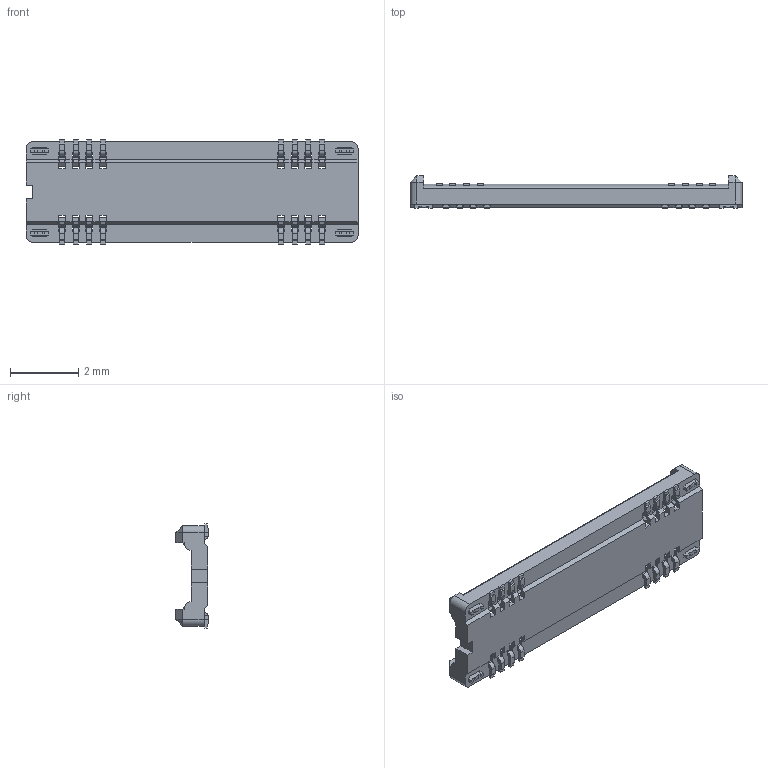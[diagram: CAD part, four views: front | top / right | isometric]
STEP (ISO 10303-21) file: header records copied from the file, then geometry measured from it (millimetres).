
FILE_DESCRIPTION((''),'2;1');
FILE_NAME('5000274042','2009-10-21T',('pnb'),(''),'PRO/ENGINEER BY PARAMETRIC TECHNOLOGY CORPORATION, 2003451','PRO/ENGINEER BY PARAMETRIC TECHNOLOGY CORPORATION, 2003451','');
FILE_SCHEMA(('CONFIG_CONTROL_DESIGN'));
Length unit declared in the file: millimetre
Products named in the file (1): 5000274042
Bounding box: 9.7 x 0.95 x 3.04 mm (x, y, z)
Volume: 10.3 mm3; surface area: 100.3 mm2
Topology: 1 solids, 1 shells, 722 faces, 2248 edges, 1496 vertices
Faces by surface type: plane 582, cylinder 136, cone 4
Entity records: 24591 total; most frequent: CARTESIAN_POINT 4383, ORIENTED_EDGE 4328, DIRECTION 3962, EDGE_CURVE 2164, VECTOR 1972, LINE 1972, VERTEX_POINT 1416, AXIS2_PLACEMENT_3D 995
